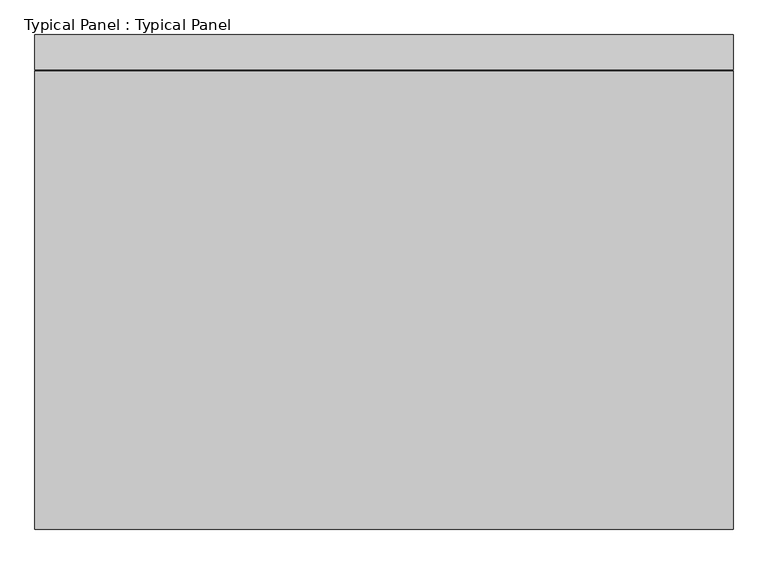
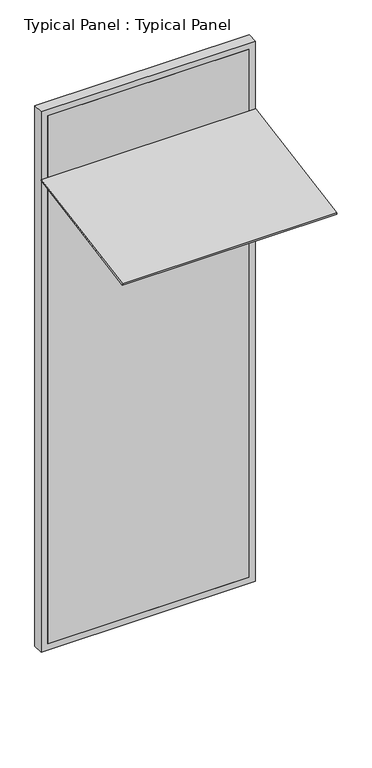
"""IFC4 building model written with IfcOpenShell, lengths in millimetres: plate geometry, Typical Panel : Typical Panel."""

from ifc_helpers import new_model, si_unit, frame, origin, place, context, project, spatial, polyline, outline, extrude, source, transform, mapped, element, save


def typical_panel_typical_panel_1d89b396(model_context):
    return source(origin(), model_context, "Body", "SweptSolid", [
        extrude(outline(polyline([(0.0, -1000.0), (0.0, 0.0), (1500.00002, 0.0), (1500.00002, -1000.0), (0.0, -1000.0)])), frame((750.00001, -988.0712712, 3316.5037448), z_axis=(0.0, -0.1736481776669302, 0.9848077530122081), x_axis=(-1.0, 0.0, 0.0)), (0.0, 0.0, 1.0), 10.0),
        extrude(outline(polyline([(0.0, -750.00001), (0.0, 750.00001), (4000.0, 750.00001), (4000.0, -750.00001), (0.0, -750.00001)]), holes=[polyline([(45.0, 705.00001), (45.0, -705.00001), (3955.0, -705.00001), (3955.0, 705.00001), (45.0, 705.00001)])]), frame((0.0, -1.5797986, 0.0), z_axis=(0.0, 1.0, 0.0), x_axis=(0.0, 0.0, 1.0)), (0.0, 0.0, 1.0), 75.0),
        extrude(outline(polyline([(705.00001, -1.5797986), (-705.00001, -1.5797986), (-705.00001, 13.4202014), (705.00001, 13.4202014), (705.00001, -1.5797986)])), frame((0.0, 0.0, 45.0), z_axis=(0.0, 0.0, 1.0), x_axis=(1.0, 0.0, 0.0)), (0.0, 0.0, 1.0), 3910.0),
    ])


if __name__ == "__main__":
    model = new_model("IFC4")
    model_context = context("Model", 3, world=origin())
    ifc_project = project(units=[si_unit("LENGTHUNIT", "METRE", prefix="MILLI")], contexts=[model_context])
    site = spatial("IfcSite", under=ifc_project)
    building = spatial("IfcBuilding", under=site)
    placement = place(None, origin())
    typical_panel_typical_panel_shape = typical_panel_typical_panel_1d89b396(model_context)
    element("IfcPlate", 1, ObjectType="Typical Panel : Typical Panel", at=placement, inside=building, context=model_context, shape_type="MappedRepresentation", body=[
        mapped(typical_panel_typical_panel_shape, transform((0.0, 0.0, 0.0), x_axis=(1.0, 0.0, 0.0), y_axis=(0.0, 1.0, 0.0), z_axis=(0.0, 0.0, 1.0))),
    ])
    save(model, "model.ifc")
